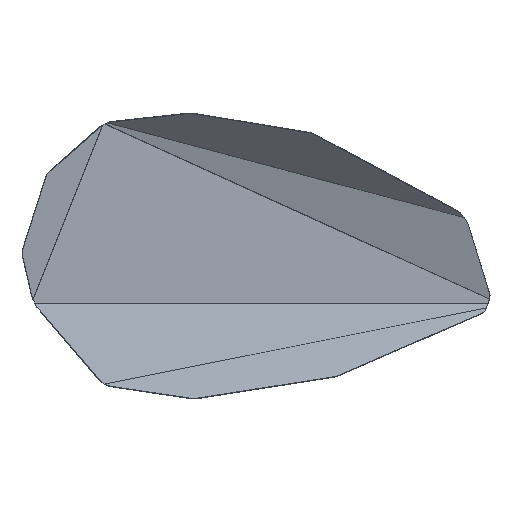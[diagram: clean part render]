
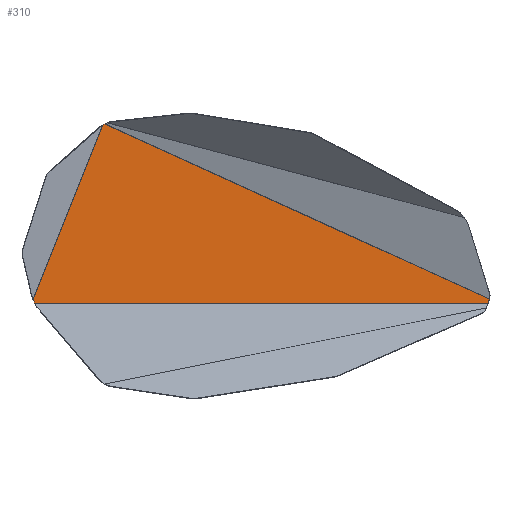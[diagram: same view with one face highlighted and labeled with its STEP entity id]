
A CAD part, top view. The second image highlights one B-rep face of the part: STEP entity #310.
In plain terms, the highlighted planar face has unit normal (0, 0, -1).
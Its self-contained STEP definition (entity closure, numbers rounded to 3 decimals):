
#310=ADVANCED_FACE('',(#392),#1284,.T.);
#392=FACE_OUTER_BOUND('',#474,.T.);
#474=EDGE_LOOP('',(#676));
#676=ORIENTED_EDGE('',*,*,#872,.T.);
#872=EDGE_CURVE('',#1232,#1232,#1043,.T.);
#1043=B_SPLINE_CURVE_WITH_KNOTS('',1,(#2659,#2660,#2661,#2662,#2663,#2664,
#2665),.UNSPECIFIED.,.T.,.F.,(2,1,1,1,1,1,2),(0.,1.,2.,3.,4.,5.,6.),
 .UNSPECIFIED.);
#1232=VERTEX_POINT('',#2658);
#1284=PLANE('',#1442);
#1442=AXIS2_PLACEMENT_3D('',#2657,#1518,$);
#1518=DIRECTION('',(0.,0.,-1.));
#2657=CARTESIAN_POINT('',(32.71,599.553,11.5));
#2658=CARTESIAN_POINT('',(24.113,215.603,11.5));
#2659=CARTESIAN_POINT('',(24.113,215.603,11.5));
#2660=CARTESIAN_POINT('',(175.124,593.742,11.5));
#2661=CARTESIAN_POINT('',(180.078,596.253,11.5));
#2662=CARTESIAN_POINT('',(1013.802,216.834,11.5));
#2663=CARTESIAN_POINT('',(1010.945,208.131,11.5));
#2664=CARTESIAN_POINT('',(27.493,208.131,11.5));
#2665=CARTESIAN_POINT('',(24.113,215.603,11.5));
